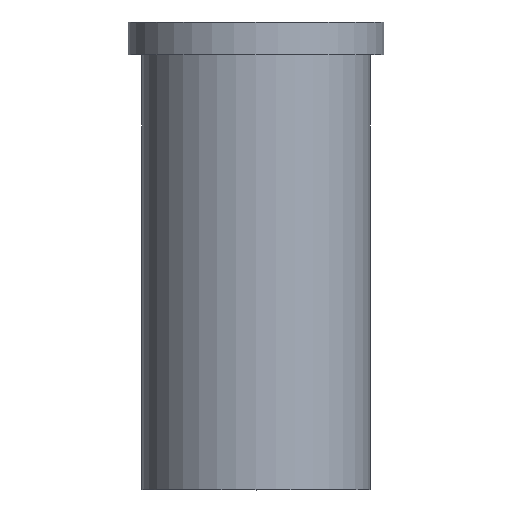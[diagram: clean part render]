
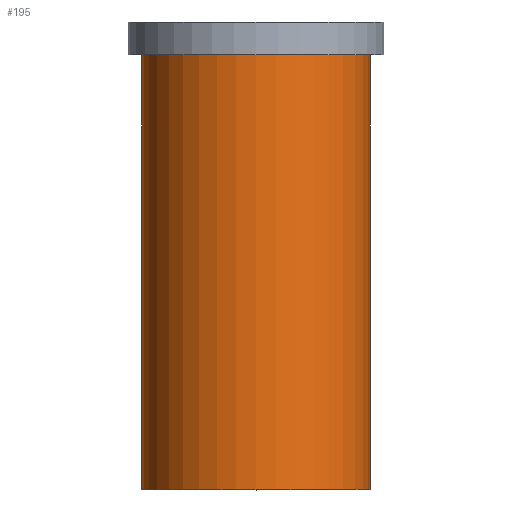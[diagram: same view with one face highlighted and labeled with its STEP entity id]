
A CAD part, top view. The second image highlights one B-rep face of the part: STEP entity #195.
In plain terms, the highlighted cylindrical face has radius 21 mm (diameter 42 mm), a full revolution.
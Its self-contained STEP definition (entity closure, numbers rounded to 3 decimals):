
#32=ORIENTED_EDGE('',*,*,#50,.T.);
#33=ORIENTED_EDGE('',*,*,#49,.F.);
#49=EDGE_CURVE('',#59,#59,#69,.T.);
#50=EDGE_CURVE('',#60,#60,#70,.T.);
#59=VERTEX_POINT('',#280);
#60=VERTEX_POINT('',#283);
#69=CIRCLE('',#213,21.);
#70=CIRCLE('',#215,21.);
#82=EDGE_LOOP('',(#32));
#83=EDGE_LOOP('',(#33));
#102=FACE_BOUND('',#82,.T.);
#103=FACE_BOUND('',#83,.T.);
#117=CYLINDRICAL_SURFACE('',#214,21.);
#195=ADVANCED_FACE('',(#102,#103),#117,.T.);
#213=AXIS2_PLACEMENT_3D('',#279,#241,#242);
#214=AXIS2_PLACEMENT_3D('',#281,#243,#244);
#215=AXIS2_PLACEMENT_3D('',#282,#245,#246);
#241=DIRECTION('',(0.,-1.,0.));
#242=DIRECTION('',(0.,0.,-1.));
#243=DIRECTION('',(0.,-1.,0.));
#244=DIRECTION('',(0.,0.,-1.));
#245=DIRECTION('',(0.,-1.,0.));
#246=DIRECTION('',(0.,0.,-1.));
#279=CARTESIAN_POINT('',(0.,0.,0.));
#280=CARTESIAN_POINT('',(0.,0.,-21.));
#281=CARTESIAN_POINT('',(0.,0.,0.));
#282=CARTESIAN_POINT('',(0.,80.,0.));
#283=CARTESIAN_POINT('',(0.,80.,-21.));
